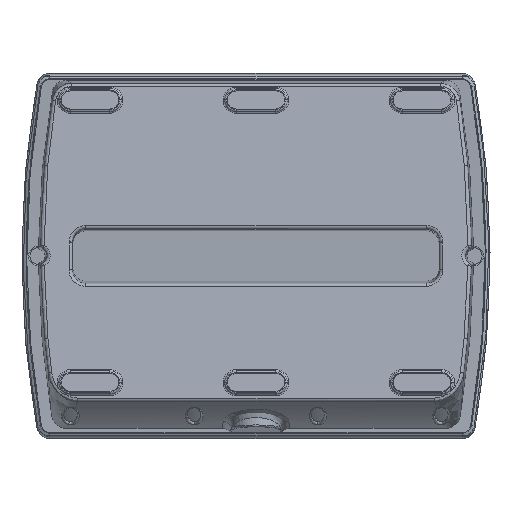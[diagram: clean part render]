
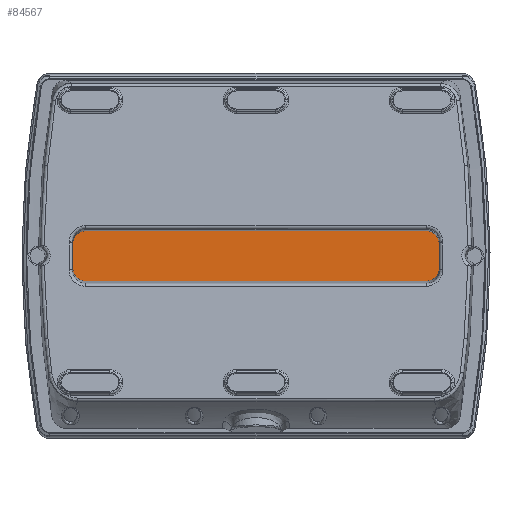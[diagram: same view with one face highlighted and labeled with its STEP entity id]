
A CAD part, front view. The second image highlights one B-rep face of the part: STEP entity #84567.
In plain terms, the highlighted planar face has unit normal (0, -1, 0).
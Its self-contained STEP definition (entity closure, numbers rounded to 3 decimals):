
#151 = CARTESIAN_POINT ( 'NONE',  ( 142.296, -52.166, 306.459 ) ) ;
#1249 = CARTESIAN_POINT ( 'NONE',  ( 134.31, -52.166, 279.112 ) ) ;
#3202 = CARTESIAN_POINT ( 'NONE',  ( -77.516, -52.166, 279.112 ) ) ;
#4013 =( BOUNDED_CURVE ( )  B_SPLINE_CURVE ( 3, ( #13814, #3202, #130586, #67306 ),
 .UNSPECIFIED., .F., .F. ) 
 B_SPLINE_CURVE_WITH_KNOTS ( ( 4, 4 ),
 ( 2.889, 4.458 ),
 .UNSPECIFIED. ) 
 CURVE ( )  GEOMETRIC_REPRESENTATION_ITEM ( )  RATIONAL_B_SPLINE_CURVE ( ( 1., 0.805, 0.805, 1. ) ) 
 REPRESENTATION_ITEM ( '' )  );
#4698 = VERTEX_POINT ( 'NONE', #4817 ) ;
#4817 = CARTESIAN_POINT ( 'NONE',  ( 134.31, -52.166, 309.777 ) ) ;
#6070 = VERTEX_POINT ( 'NONE', #99182 ) ;
#6119 = ORIENTED_EDGE ( 'NONE', *, *, #39042, .F. ) ;
#7269 = ORIENTED_EDGE ( 'NONE', *, *, #29128, .F. ) ;
#8523 = VERTEX_POINT ( 'NONE', #32694 ) ;
#11185 = PLANE ( 'NONE',  #39496 ) ;
#13814 = CARTESIAN_POINT ( 'NONE',  ( -72.836, -52.166, 279.112 ) ) ;
#13932 = CARTESIAN_POINT ( 'NONE',  ( -72.836, -52.166, 309.777 ) ) ;
#14101 =( BOUNDED_CURVE ( )  B_SPLINE_CURVE ( 3, ( #94780, #63382, #151, #74006 ),
 .UNSPECIFIED., .F., .F. ) 
 B_SPLINE_CURVE_WITH_KNOTS ( ( 4, 4 ),
 ( 6.03, 7.599 ),
 .UNSPECIFIED. ) 
 CURVE ( )  GEOMETRIC_REPRESENTATION_ITEM ( )  RATIONAL_B_SPLINE_CURVE ( ( 1., 0.805, 0.805, 1. ) ) 
 REPRESENTATION_ITEM ( '' )  );
#18104 = CARTESIAN_POINT ( 'NONE',  ( -80.822, -52.166, 287.126 ) ) ;
#22457 = VERTEX_POINT ( 'NONE', #18104 ) ;
#27282 = CARTESIAN_POINT ( 'NONE',  ( -80.822, -52.166, 301.762 ) ) ;
#27359 = CARTESIAN_POINT ( 'NONE',  ( 30.737, -52.166, 309.777 ) ) ;
#29128 = EDGE_CURVE ( 'NONE', #8523, #6070, #78308, .T. ) ;
#30568 = CARTESIAN_POINT ( 'NONE',  ( -80.822, -52.166, 301.762 ) ) ;
#32694 = CARTESIAN_POINT ( 'NONE',  ( 142.296, -52.166, 287.126 ) ) ;
#33249 = CARTESIAN_POINT ( 'NONE',  ( 142.296, -52.166, 294.354 ) ) ;
#33340 = CARTESIAN_POINT ( 'NONE',  ( -80.822, -52.166, 279.112 ) ) ;
#34259 = FACE_OUTER_BOUND ( 'NONE', #113772, .T. ) ;
#38992 = ORIENTED_EDGE ( 'NONE', *, *, #66080, .T. ) ;
#39042 = EDGE_CURVE ( 'NONE', #22457, #73597, #72037, .T. ) ;
#39496 = AXIS2_PLACEMENT_3D ( 'NONE', #33340, #107149, #43939 ) ;
#40019 = DIRECTION ( 'NONE',  ( 0., 0., 1. ) ) ;
#43260 = CARTESIAN_POINT ( 'NONE',  ( 142.296, -52.166, 287.126 ) ) ;
#43939 = DIRECTION ( 'NONE',  ( 0., 0., 1. ) ) ;
#49525 = VECTOR ( 'NONE', #108177, 1000. ) ;
#55259 = ORIENTED_EDGE ( 'NONE', *, *, #111594, .F. ) ;
#62380 = CARTESIAN_POINT ( 'NONE',  ( -72.836, -52.166, 309.777 ) ) ;
#63382 = CARTESIAN_POINT ( 'NONE',  ( 138.99, -52.166, 309.777 ) ) ;
#64053 = EDGE_CURVE ( 'NONE', #4698, #95033, #14101, .T. ) ;
#64466 = CARTESIAN_POINT ( 'NONE',  ( 138.99, -52.166, 279.112 ) ) ;
#66080 = EDGE_CURVE ( 'NONE', #112806, #6070, #69502, .T. ) ;
#67306 = CARTESIAN_POINT ( 'NONE',  ( -80.822, -52.166, 287.126 ) ) ;
#67498 = LINE ( 'NONE', #27359, #92262 ) ;
#69502 = LINE ( 'NONE', #97560, #49525 ) ;
#72037 = LINE ( 'NONE', #92623, #78692 ) ;
#73597 = VERTEX_POINT ( 'NONE', #27282 ) ;
#74006 = CARTESIAN_POINT ( 'NONE',  ( 142.296, -52.166, 301.762 ) ) ;
#74650 = CARTESIAN_POINT ( 'NONE',  ( 142.296, -52.166, 282.43 ) ) ;
#76631 = DIRECTION ( 'NONE',  ( 0., 0., -1. ) ) ;
#77447 = ORIENTED_EDGE ( 'NONE', *, *, #117649, .T. ) ;
#78308 =( BOUNDED_CURVE ( )  B_SPLINE_CURVE ( 3, ( #43260, #74650, #64466, #1249 ),
 .UNSPECIFIED., .F., .F. ) 
 B_SPLINE_CURVE_WITH_KNOTS ( ( 4, 4 ),
 ( 1.826, 3.394 ),
 .UNSPECIFIED. ) 
 CURVE ( )  GEOMETRIC_REPRESENTATION_ITEM ( )  RATIONAL_B_SPLINE_CURVE ( ( 1., 0.805, 0.805, 1. ) ) 
 REPRESENTATION_ITEM ( '' )  );
#78692 = VECTOR ( 'NONE', #40019, 1000. ) ;
#84567 = ADVANCED_FACE ( 'NONE', ( #34259 ), #11185, .F. ) ;
#84953 = VERTEX_POINT ( 'NONE', #13932 ) ;
#92262 = VECTOR ( 'NONE', #111821, 1000. ) ;
#92623 = CARTESIAN_POINT ( 'NONE',  ( -80.822, -52.166, 294.354 ) ) ;
#93770 = CARTESIAN_POINT ( 'NONE',  ( -80.822, -52.166, 306.459 ) ) ;
#94780 = CARTESIAN_POINT ( 'NONE',  ( 134.31, -52.166, 309.777 ) ) ;
#95033 = VERTEX_POINT ( 'NONE', #134503 ) ;
#97365 = ORIENTED_EDGE ( 'NONE', *, *, #100671, .F. ) ;
#97560 = CARTESIAN_POINT ( 'NONE',  ( 30.737, -52.166, 279.112 ) ) ;
#99182 = CARTESIAN_POINT ( 'NONE',  ( 134.31, -52.166, 279.112 ) ) ;
#100671 = EDGE_CURVE ( 'NONE', #73597, #84953, #121518, .T. ) ;
#102615 = ORIENTED_EDGE ( 'NONE', *, *, #64053, .F. ) ;
#104292 = ORIENTED_EDGE ( 'NONE', *, *, #128614, .F. ) ;
#107149 = DIRECTION ( 'NONE',  ( 0., 1., 0. ) ) ;
#107483 = VECTOR ( 'NONE', #76631, 1000. ) ;
#108177 = DIRECTION ( 'NONE',  ( 1., 0., 0. ) ) ;
#111594 = EDGE_CURVE ( 'NONE', #95033, #8523, #135580, .T. ) ;
#111821 = DIRECTION ( 'NONE',  ( -1., 0., 0. ) ) ;
#112806 = VERTEX_POINT ( 'NONE', #125506 ) ;
#113772 = EDGE_LOOP ( 'NONE', ( #77447, #97365, #6119, #104292, #38992, #7269, #55259, #102615 ) ) ;
#117649 = EDGE_CURVE ( 'NONE', #4698, #84953, #67498, .T. ) ;
#121518 =( BOUNDED_CURVE ( )  B_SPLINE_CURVE ( 3, ( #30568, #93770, #125619, #62380 ),
 .UNSPECIFIED., .F., .F. ) 
 B_SPLINE_CURVE_WITH_KNOTS ( ( 4, 4 ),
 ( 4.967, 6.536 ),
 .UNSPECIFIED. ) 
 CURVE ( )  GEOMETRIC_REPRESENTATION_ITEM ( )  RATIONAL_B_SPLINE_CURVE ( ( 1., 0.805, 0.805, 1. ) ) 
 REPRESENTATION_ITEM ( '' )  );
#125506 = CARTESIAN_POINT ( 'NONE',  ( -72.836, -52.166, 279.112 ) ) ;
#125619 = CARTESIAN_POINT ( 'NONE',  ( -77.516, -52.166, 309.777 ) ) ;
#128614 = EDGE_CURVE ( 'NONE', #112806, #22457, #4013, .T. ) ;
#130586 = CARTESIAN_POINT ( 'NONE',  ( -80.822, -52.166, 282.43 ) ) ;
#134503 = CARTESIAN_POINT ( 'NONE',  ( 142.296, -52.166, 301.762 ) ) ;
#135580 = LINE ( 'NONE', #33249, #107483 ) ;
